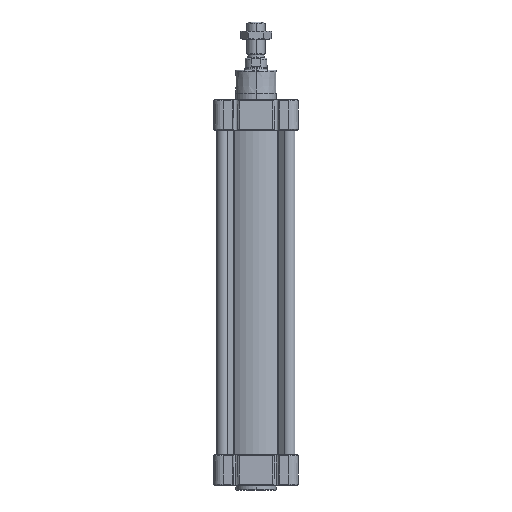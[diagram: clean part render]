
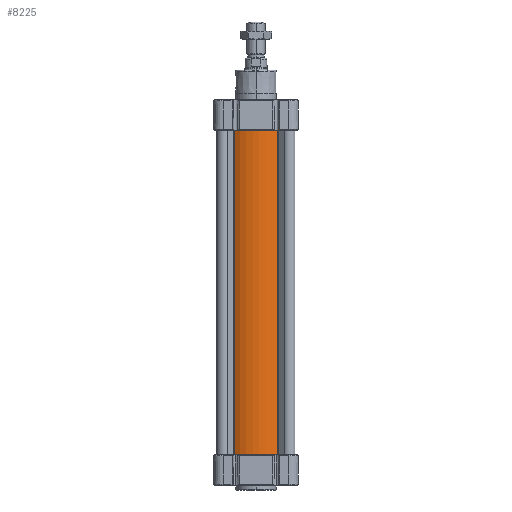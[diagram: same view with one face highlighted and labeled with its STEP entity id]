
A CAD part, left-side view. The second image highlights one B-rep face of the part: STEP entity #8225.
In plain terms, the highlighted cylindrical face has radius 42 mm (diameter 84 mm), a partial arc.
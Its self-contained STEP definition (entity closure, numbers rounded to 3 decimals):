
#6885 = VERTEX_POINT ( 'NONE', #54815 ) ;
#8225 = ADVANCED_FACE ( 'NONE', ( #14561 ), #88315, .T. ) ;
#8619 = LINE ( 'NONE', #35309, #87165 ) ;
#14561 = FACE_OUTER_BOUND ( 'NONE', #79343, .T. ) ;
#16528 = EDGE_CURVE ( 'NONE', #59203, #40837, #8619, .T. ) ;
#16544 = DIRECTION ( 'NONE',  ( 0., 0., 1. ) ) ;
#18779 = DIRECTION ( 'NONE',  ( 0., 0., -1. ) ) ;
#23165 = CARTESIAN_POINT ( 'NONE',  ( -23.655, -34.705, 360. ) ) ;
#23438 = DIRECTION ( 'NONE',  ( 0., 0., -1. ) ) ;
#23990 = CIRCLE ( 'NONE', #77565, 42. ) ;
#24261 = DIRECTION ( 'NONE',  ( 1., 0., 0. ) ) ;
#35309 = CARTESIAN_POINT ( 'NONE',  ( -23.655, -34.705, 360. ) ) ;
#38325 = ORIENTED_EDGE ( 'NONE', *, *, #94749, .F. ) ;
#40837 = VERTEX_POINT ( 'NONE', #41020 ) ;
#41020 = CARTESIAN_POINT ( 'NONE',  ( -23.655, -34.705, 0. ) ) ;
#46611 = CIRCLE ( 'NONE', #76241, 42. ) ;
#48483 = DIRECTION ( 'NONE',  ( 1., 0., 0. ) ) ;
#50939 = ORIENTED_EDGE ( 'NONE', *, *, #53795, .F. ) ;
#51033 = DIRECTION ( 'NONE',  ( 0., 0., -1. ) ) ;
#52763 = DIRECTION ( 'NONE',  ( -1., 0., 0. ) ) ;
#53795 = EDGE_CURVE ( 'NONE', #6885, #93545, #61048, .T. ) ;
#53929 = CARTESIAN_POINT ( 'NONE',  ( 23.655, -34.705, 360. ) ) ;
#54815 = CARTESIAN_POINT ( 'NONE',  ( 23.655, -34.705, 360. ) ) ;
#59203 = VERTEX_POINT ( 'NONE', #23165 ) ;
#60819 = CARTESIAN_POINT ( 'NONE',  ( 23.655, -34.705, 0. ) ) ;
#61048 = LINE ( 'NONE', #53929, #88788 ) ;
#65983 = CARTESIAN_POINT ( 'NONE',  ( 0., 0., 360. ) ) ;
#66302 = EDGE_CURVE ( 'NONE', #40837, #93545, #23990, .T. ) ;
#70584 = ORIENTED_EDGE ( 'NONE', *, *, #16528, .T. ) ;
#76062 = AXIS2_PLACEMENT_3D ( 'NONE', #65983, #51033, #52763 ) ;
#76241 = AXIS2_PLACEMENT_3D ( 'NONE', #86464, #16544, #24261 ) ;
#77565 = AXIS2_PLACEMENT_3D ( 'NONE', #86300, #79546, #48483 ) ;
#79343 = EDGE_LOOP ( 'NONE', ( #93305, #50939, #38325, #70584 ) ) ;
#79546 = DIRECTION ( 'NONE',  ( 0., 0., 1. ) ) ;
#86300 = CARTESIAN_POINT ( 'NONE',  ( 0., 0., 0. ) ) ;
#86464 = CARTESIAN_POINT ( 'NONE',  ( 0., 0., 360. ) ) ;
#87165 = VECTOR ( 'NONE', #18779, 1000. ) ;
#88315 = CYLINDRICAL_SURFACE ( 'NONE', #76062, 42. ) ;
#88788 = VECTOR ( 'NONE', #23438, 1000. ) ;
#93305 = ORIENTED_EDGE ( 'NONE', *, *, #66302, .T. ) ;
#93545 = VERTEX_POINT ( 'NONE', #60819 ) ;
#94749 = EDGE_CURVE ( 'NONE', #59203, #6885, #46611, .T. ) ;
